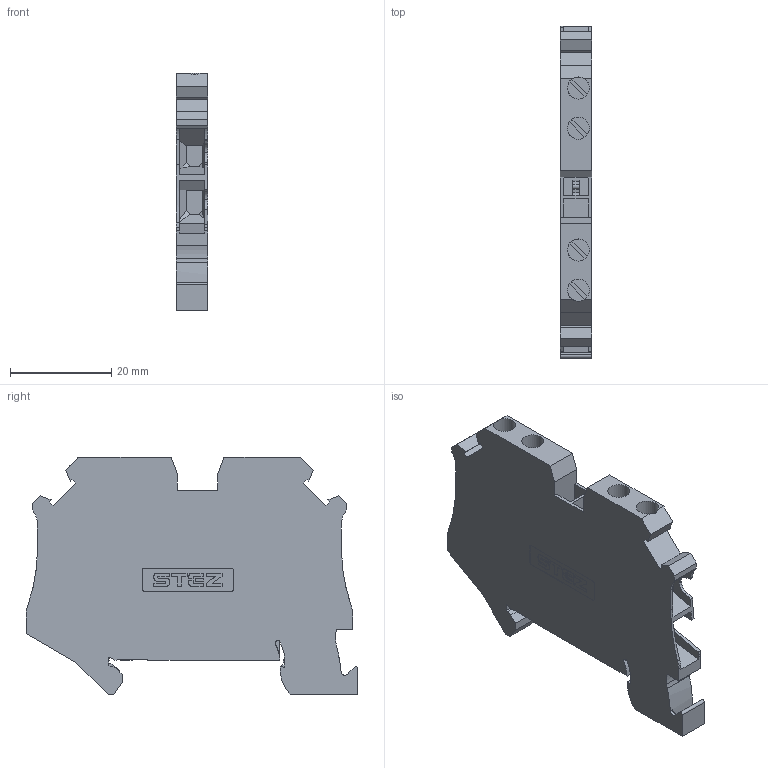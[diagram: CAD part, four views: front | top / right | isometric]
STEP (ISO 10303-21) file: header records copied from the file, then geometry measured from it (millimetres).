
FILE_DESCRIPTION(('TFLEX Exchange Step'),'2;1');
FILE_NAME('11000092_КНВ_4-4-PE.stp', '2024-05-02T14:17:56+03:00',('apanin'),('Unknown organisation'),'TFLEX Exchange 2023.2','T-FLEX CAD','Unknown authorisation');
FILE_SCHEMA( ('AUTOMOTIVE_DESIGN { 1 0 10303 214 1 1 1 1 }') );
Length unit declared in the file: millimetre
Products named in the file (1): Тело_1 - ut4_quattro_pe_select:1
Bounding box: 6.15 x 65.4 x 46.85 mm (x, y, z)
Volume: 11927.5 mm3; surface area: 8236.1 mm2
Topology: 1 solids, 1 shells, 472 faces, 1365 edges, 905 vertices
Faces by surface type: plane 266, cylinder 206
Full cylindrical faces by diameter (mm): 4.35 x4
Entity records: 15923 total; most frequent: DIRECTION 2753, CARTESIAN_POINT 2751, ORIENTED_EDGE 2730, EDGE_CURVE 1365, AXIS2_PLACEMENT_3D 919, VECTOR 915, LINE 915, VERTEX_POINT 905
